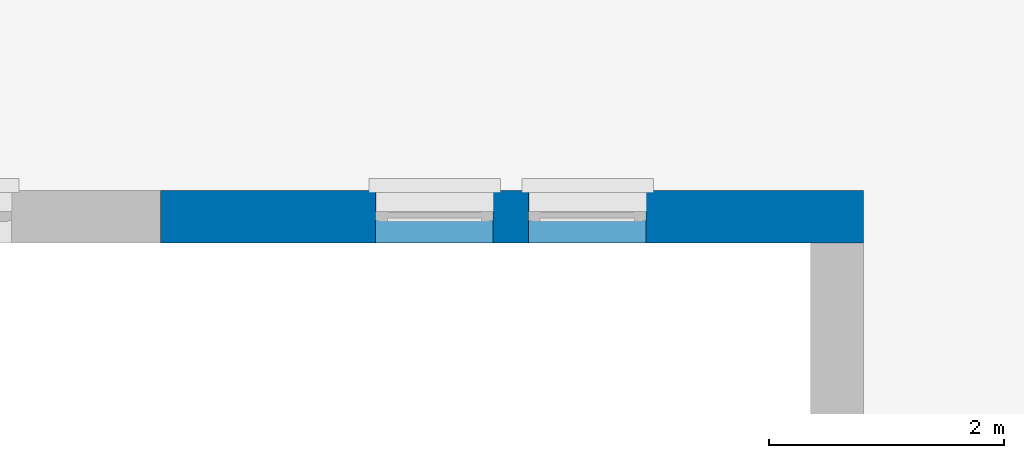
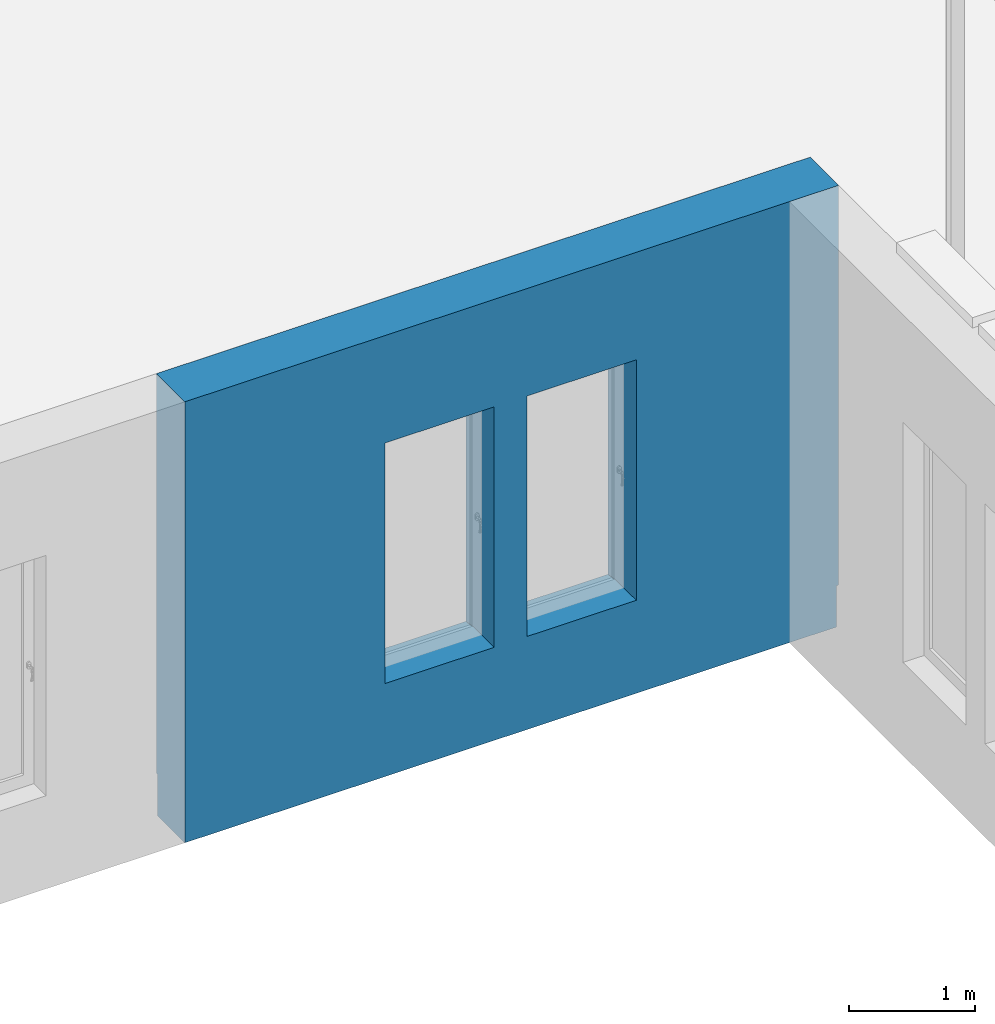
# One storey, part 34 of 77: 1 wall, 3 openings.
"""IFC2X3 building model written with IfcOpenShell, lengths in millimetres."""

from ifc_helpers import new_model, entity, si_unit, converted_unit, derived_unit, direction, frame, frame_2d, origin, place, context, subcontext, project, spatial, rectangle, extrude, faceted_brep, material, layer, layer_set, layer_usage, type_object, element, save


model = new_model("IFC2X3")

# Units and contexts
model_context = context("Model", 3, precision=0.01, world=origin(), true_north=direction((6.12303176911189e-17, 1.0)))
body_context = subcontext(model_context, "Body", "Model", "MODEL_VIEW")
ifc_project = project(units=[si_unit("LENGTHUNIT", "METRE", prefix="MILLI"), si_unit("AREAUNIT", "SQUARE_METRE"), si_unit("VOLUMEUNIT", "CUBIC_METRE"), converted_unit("PLANEANGLEUNIT", "DEGREE", entity("IfcRatioMeasure", 0.0174532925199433), si_unit("PLANEANGLEUNIT", "RADIAN"), dimensions=[0, 0, 0, 0, 0, 0, 0]), si_unit("MASSUNIT", "GRAM", prefix="KILO"), derived_unit("MASSDENSITYUNIT", [(si_unit("MASSUNIT", "GRAM", prefix="KILO"), 1), (si_unit("LENGTHUNIT", "METRE"), -3)]), si_unit("TIMEUNIT", "SECOND"), si_unit("FREQUENCYUNIT", "HERTZ"), si_unit("THERMODYNAMICTEMPERATUREUNIT", "DEGREE_CELSIUS"), derived_unit("THERMALTRANSMITTANCEUNIT", [(si_unit("MASSUNIT", "GRAM", prefix="KILO"), 1), (si_unit("THERMODYNAMICTEMPERATUREUNIT", "KELVIN"), -1), (si_unit("TIMEUNIT", "SECOND"), -3)]), derived_unit("VOLUMETRICFLOWRATEUNIT", [(si_unit("LENGTHUNIT", "METRE"), 3), (si_unit("TIMEUNIT", "SECOND"), -1)]), si_unit("ELECTRICCURRENTUNIT", "AMPERE"), si_unit("ELECTRICVOLTAGEUNIT", "VOLT"), si_unit("POWERUNIT", "WATT"), si_unit("FORCEUNIT", "NEWTON", prefix="KILO"), si_unit("ILLUMINANCEUNIT", "LUX"), si_unit("LUMINOUSFLUXUNIT", "LUMEN"), si_unit("LUMINOUSINTENSITYUNIT", "CANDELA"), derived_unit("USERDEFINED", [(si_unit("MASSUNIT", "GRAM", prefix="KILO"), -1), (si_unit("LENGTHUNIT", "METRE"), -2), (si_unit("TIMEUNIT", "SECOND"), 3), (si_unit("LUMINOUSFLUXUNIT", "LUMEN"), 1)]), derived_unit("LINEARVELOCITYUNIT", [(si_unit("LENGTHUNIT", "METRE"), 1), (si_unit("TIMEUNIT", "SECOND"), -1)]), si_unit("PRESSUREUNIT", "PASCAL"), derived_unit("USERDEFINED", [(si_unit("LENGTHUNIT", "METRE"), -2), (si_unit("MASSUNIT", "GRAM", prefix="KILO"), 1), (si_unit("TIMEUNIT", "SECOND"), -2)])], contexts=[model_context])

# Site, building, storey
site_placement = place(None, origin())
site = spatial("IfcSite", under=ifc_project, at=site_placement, Name="Default", CompositionType="ELEMENT")
building_placement = place(site_placement, origin())
building = spatial("IfcBuilding", under=site, at=building_placement, CompositionType="ELEMENT")
storey_placement = place(building_placement, origin())
storey = spatial("IfcBuildingStorey", under=building, at=storey_placement, Name="1. KORRUS", CompositionType="ELEMENT", Elevation=0.0)

# Wall, openings
ifc_material_1 = material(Name="RECKLI 1 173 THUR by Polantis 2016-toon1")
ifc_layer_1 = layer(ifc_material_1, 100.0)
ifc_material_2 = material(Name="Soojusisolatsioon EPS")
ifc_layer_2 = layer(ifc_material_2, 200.0)
ifc_material_3 = material(Name="r/b")
ifc_layer_3 = layer(ifc_material_3, 150.0)
ifc_layer_set = layer_set([ifc_layer_1, ifc_layer_2, ifc_layer_3], Name="Basic Wall:VS-1_toon-d")
ifc_layer_usage = layer_usage(ifc_layer_set, "AXIS2", "NEGATIVE", 225.0)
wall_type = type_object("IfcWallType", Name="Basic Wall:VS-1_toon-d", PredefinedType="STANDARD", material=ifc_layer_set)
wall_placement = place(storey_placement, frame((33970.103570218, 21725.0517807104, -400.0)))
wall = element("IfcWallStandardCase", 1, at=wall_placement, inside=storey, type_object=wall_type, material=ifc_layer_usage, Name="Basic Wall:VS-1_toon-d", ObjectType="Basic Wall:VS-1_toon-d", context=body_context, shape_type="SweptSolid", body=[
    extrude(rectangle(XDim=5979.89642978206, YDim=450.000000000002, at=frame_2d((2989.94821489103, 9.52127265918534e-13), x_axis=(-1.0, 0.0))), origin(), (0.0, 0.0, 1.0), 4265.0),
])
opening_1_placement = place(wall_placement, origin())
element("IfcOpeningElement", 2, at=opening_1_placement, cuts=wall, Name="Basic Wall:VS-1_toon-d", ObjectType="Opening", context=body_context, shape_type="Brep", body=[
    faceted_brep([(-34400.1035702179, 6304.94821928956, 400.0), (-34400.1035702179, 6304.94821928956, 0.0), (-34420.1035702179, 6324.94821928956, 0.0), (-34420.1035702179, 6324.94821928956, 400.0), (-34400.1035702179, 1564.94821928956, 400.0), (-34420.1035702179, 1564.94821928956, 400.0), (-34420.1035702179, 1564.94821928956, 0.0), (-34400.1035702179, 1564.94821928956, 0.0)], [[[0, 1, 2, 3]], [[4, 5, 6, 7]], [[1, 0, 4, 7]], [[2, 1, 7, 6]], [[3, 2, 6, 5]], [[0, 3, 5, 4]]]),
    faceted_brep([(-34400.1035702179, 6304.94821928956, 400.0), (-34420.1035702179, 6324.94821928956, 400.0), (-34420.1035702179, 6324.94821928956, 0.0), (-34400.1035702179, 6304.94821928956, 0.0), (-30060.1035702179, 6304.94821928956, 400.0), (-30060.1035702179, 6304.94821928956, 0.0), (-30060.1035702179, 6324.94821928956, 0.0), (-30060.1035702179, 6324.94821928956, 400.0)], [[[0, 1, 2, 3]], [[4, 5, 6, 7]], [[1, 0, 4, 7]], [[2, 1, 7, 6]], [[3, 2, 6, 5]], [[0, 3, 5, 4]]]),
    faceted_brep([(-24340.1035702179, 6304.94821928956, 400.0), (-24320.103570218, 6324.94821928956, 400.0), (-24320.103570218, 6324.94821928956, 0.0), (-24340.1035702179, 6304.94821928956, 0.0), (-24340.1035702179, 205.0, 400.0), (-24340.1035702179, 205.0, 0.0), (-24320.1035702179, 225.0, 0.0), (-24320.1035702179, 225.0, 400.0)], [[[0, 1, 2, 3]], [[4, 5, 6, 7]], [[1, 0, 4, 7]], [[2, 1, 7, 6]], [[3, 2, 6, 5]], [[0, 3, 5, 4]]]),
    faceted_brep([(-19620.1035702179, 205.0, 400.0), (-19620.1035702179, 225.0, 400.0), (-19620.1035702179, 225.0, 0.0), (-19620.1035702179, 205.0, 0.0), (-19090.1035702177, 205.0, 400.0), (-19090.1035702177, 205.0, 0.0), (-19090.1035702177, 225.0, 0.0), (-19090.1035702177, 225.0, 400.0)], [[[0, 1, 2, 3]], [[4, 5, 6, 7]], [[1, 0, 4, 7]], [[2, 1, 7, 6]], [[3, 2, 6, 5]], [[0, 3, 5, 4]]]),
    faceted_brep([(5959.89642978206, 205.0, 400.0), (5979.89642978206, 225.0, 400.0), (5979.89642978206, 225.0, 0.0), (5959.89642978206, 205.0, 0.0), (5959.89642978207, -5935.05178071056, 400.0), (5959.89642978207, -5935.05178071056, 0.0), (5979.89642978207, -5935.05178071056, 0.0), (5979.89642978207, -5935.05178071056, 400.0)], [[[0, 1, 2, 3]], [[4, 5, 6, 7]], [[1, 0, 4, 7]], [[2, 1, 7, 6]], [[3, 2, 6, 5]], [[0, 3, 5, 4]]]),
    faceted_brep([(5959.8964297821, -22155.0517807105, 400.0), (5979.8964297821, -22175.0517807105, 400.0), (5979.8964297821, -22175.0517807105, 0.0), (5959.8964297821, -22155.0517807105, 0.0), (829.896429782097, -22155.0517807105, 400.0), (829.896429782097, -22155.0517807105, 0.0), (829.896429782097, -22175.0517807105, 0.0), (829.896429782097, -22175.0517807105, 400.0)], [[[0, 1, 2, 3]], [[4, 5, 6, 7]], [[1, 0, 4, 7]], [[2, 1, 7, 6]], [[3, 2, 6, 5]], [[0, 3, 5, 4]]]),
    faceted_brep([(-22570.1035702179, -22155.0517807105, 400.0), (-22570.1035702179, -22175.0517807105, 400.0), (-22570.1035702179, -22175.0517807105, 0.0), (-22570.1035702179, -22155.0517807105, 0.0), (-26355.1035702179, -22155.0517807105, 400.0), (-26355.1035702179, -22155.0517807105, 0.0), (-26355.1035702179, -22175.0517807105, 0.0), (-26355.1035702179, -22175.0517807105, 400.0)], [[[0, 1, 2, 3]], [[4, 5, 6, 7]], [[1, 0, 4, 7]], [[2, 1, 7, 6]], [[3, 2, 6, 5]], [[0, 3, 5, 4]]]),
    faceted_brep([(5959.89642978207, -8965.05178071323, 400.0), (5979.89642978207, -8965.05178071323, 400.0), (5979.89642978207, -8965.05178071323, 0.0), (5959.89642978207, -8965.05178071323, 0.0), (5959.89642978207, -13081.7217807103, 400.0), (5959.89642978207, -13081.7217807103, 0.0), (5979.89642978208, -13081.7217807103, 0.0), (5979.89642978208, -13081.7217807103, 400.0)], [[[0, 1, 2, 3]], [[4, 5, 6, 7]], [[1, 0, 4, 7]], [[2, 1, 7, 6]], [[3, 2, 6, 5]], [[0, 3, 5, 4]]]),
    faceted_brep([(-2770.10357021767, -22155.0517807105, 400.0), (-2770.10357021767, -22175.0517807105, 400.0), (-2770.10357021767, -22175.0517807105, 0.0), (-2770.10357021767, -22155.0517807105, 0.0), (-5170.1035702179, -22155.0517807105, 400.0), (-5170.1035702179, -22155.0517807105, 0.0), (-5170.1035702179, -22175.0517807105, 0.0), (-5170.1035702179, -22175.0517807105, 400.0)], [[[0, 1, 2, 3]], [[4, 5, 6, 7]], [[1, 0, 4, 7]], [[2, 1, 7, 6]], [[3, 2, 6, 5]], [[0, 3, 5, 4]]]),
    faceted_brep([(-30180.0727464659, -22155.0517807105, 400.0), (-30180.0727464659, -22175.0517807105, 400.0), (-30180.0727464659, -22175.0517807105, 0.0), (-30180.0727464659, -22155.0517807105, 0.0), (-32665.0727464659, -22155.0517807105, 400.0), (-32665.0727464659, -22155.0517807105, 0.0), (-32665.0727464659, -22175.0517807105, 0.0), (-32665.0727464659, -22175.0517807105, 400.0)], [[[0, 1, 2, 3]], [[4, 5, 6, 7]], [[1, 0, 4, 7]], [[2, 1, 7, 6]], [[3, 2, 6, 5]], [[0, 3, 5, 4]]]),
    faceted_brep([(-17970.1035702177, -22155.0517807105, 400.0), (-17970.1035702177, -22175.0517807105, 400.0), (-17970.1035702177, -22175.0517807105, 0.0), (-17970.1035702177, -22155.0517807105, 0.0), (-18970.1035702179, -22155.0517807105, 400.0), (-18970.1035702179, -22155.0517807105, 0.0), (-18970.1035702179, -22175.0517807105, 0.0), (-18970.1035702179, -22175.0517807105, 400.0)], [[[0, 1, 2, 3]], [[4, 5, 6, 7]], [[1, 0, 4, 7]], [[2, 1, 7, 6]], [[3, 2, 6, 5]], [[0, 3, 5, 4]]]),
    faceted_brep([(-13370.0719072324, -22155.0517807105, 400.0), (-13370.0719072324, -22175.0517807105, 400.0), (-13370.0719072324, -22175.0517807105, 0.0), (-13370.0719072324, -22155.0517807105, 0.0), (-14370.1035702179, -22155.0517807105, 400.0), (-14370.1035702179, -22155.0517807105, 0.0), (-14370.1035702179, -22175.0517807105, 0.0), (-14370.1035702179, -22175.0517807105, 400.0)], [[[0, 1, 2, 3]], [[4, 5, 6, 7]], [[1, 0, 4, 7]], [[2, 1, 7, 6]], [[3, 2, 6, 5]], [[0, 3, 5, 4]]]),
    faceted_brep([(-8770.07190723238, -22155.0517807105, 400.0), (-8770.07190723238, -22175.0517807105, 400.0), (-8770.07190723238, -22175.0517807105, 0.0), (-8770.07190723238, -22155.0517807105, 0.0), (-9770.1035702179, -22155.0517807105, 400.0), (-9770.1035702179, -22155.0517807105, 0.0), (-9770.1035702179, -22175.0517807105, 0.0), (-9770.1035702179, -22175.0517807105, 400.0)], [[[0, 1, 2, 3]], [[4, 5, 6, 7]], [[1, 0, 4, 7]], [[2, 1, 7, 6]], [[3, 2, 6, 5]], [[0, 3, 5, 4]]]),
    faceted_brep([(5959.89642978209, -17310.0517807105, 400.0), (5979.89642978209, -17310.0517807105, 400.0), (5979.89642978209, -17310.0517807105, 0.0), (5959.89642978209, -17310.0517807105, 0.0), (5959.8964297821, -22155.0517807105, 400.0), (5959.8964297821, -22155.0517807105, 0.0), (5979.8964297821, -22175.0517807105, 0.0), (5979.8964297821, -22175.0517807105, 400.0)], [[[0, 1, 2, 3]], [[4, 5, 6, 7]], [[1, 0, 4, 7]], [[2, 1, 7, 6]], [[3, 2, 6, 5]], [[0, 3, 5, 4]]]),
    faceted_brep([(5959.89642978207, -13081.7217807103, 400.0), (5979.89642978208, -13081.7217807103, 400.0), (5979.89642978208, -13081.7217807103, 0.0), (5959.89642978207, -13081.7217807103, 0.0), (5959.89642978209, -17310.0517807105, 400.0), (5959.89642978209, -17310.0517807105, 0.0), (5979.89642978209, -17310.0517807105, 0.0), (5979.89642978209, -17310.0517807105, 400.0)], [[[0, 1, 2, 3]], [[4, 5, 6, 7]], [[1, 0, 4, 7]], [[2, 1, 7, 6]], [[3, 2, 6, 5]], [[0, 3, 5, 4]]]),
    faceted_brep([(5959.89642978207, -5935.05178071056, 400.0), (5979.89642978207, -5935.05178071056, 400.0), (5979.89642978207, -5935.05178071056, 0.0), (5959.89642978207, -5935.05178071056, 0.0), (5959.89642978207, -8965.05178071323, 400.0), (5959.89642978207, -8965.05178071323, 0.0), (5979.89642978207, -8965.05178071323, 0.0), (5979.89642978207, -8965.05178071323, 400.0)], [[[0, 1, 2, 3]], [[4, 5, 6, 7]], [[1, 0, 4, 7]], [[2, 1, 7, 6]], [[3, 2, 6, 5]], [[0, 3, 5, 4]]]),
    faceted_brep([(0.0, 205.0, 400.0), (0.0, 225.0, 400.0), (0.0, 225.0, 0.0), (0.0, 205.0, 0.0), (5959.89642978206, 205.0, 400.0), (5959.89642978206, 205.0, 0.0), (5979.89642978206, 225.0, 0.0), (5979.89642978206, 225.0, 400.0)], [[[0, 1, 2, 3]], [[4, 5, 6, 7]], [[1, 0, 4, 7]], [[2, 1, 7, 6]], [[3, 2, 6, 5]], [[0, 3, 5, 4]]]),
    faceted_brep([(-5306.88742148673, 205.0, 400.0), (-5306.88742148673, 225.0, 400.0), (-5306.88742148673, 225.0, 0.0), (-5306.88742148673, 205.0, 0.0), (0.0, 205.0, 400.0), (0.0, 205.0, 0.0), (0.0, 225.0, 0.0), (0.0, 225.0, 400.0)], [[[0, 1, 2, 3]], [[4, 5, 6, 7]], [[1, 0, 4, 7]], [[2, 1, 7, 6]], [[3, 2, 6, 5]], [[0, 3, 5, 4]]]),
    faceted_brep([(-26355.1035702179, -22155.0517807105, 400.0), (-26355.1035702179, -22175.0517807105, 400.0), (-26355.1035702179, -22175.0517807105, 0.0), (-26355.1035702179, -22155.0517807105, 0.0), (-30180.0727464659, -22155.0517807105, 400.0), (-30180.0727464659, -22155.0517807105, 0.0), (-30180.0727464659, -22175.0517807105, 0.0), (-30180.0727464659, -22175.0517807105, 400.0)], [[[0, 1, 2, 3]], [[4, 5, 6, 7]], [[1, 0, 4, 7]], [[2, 1, 7, 6]], [[3, 2, 6, 5]], [[0, 3, 5, 4]]]),
    faceted_brep([(-11885.1035702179, 205.0, 400.0), (-11885.1035702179, 225.0, 400.0), (-11885.1035702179, 225.0, 0.0), (-11885.1035702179, 205.0, 0.0), (-5306.88742148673, 205.0, 400.0), (-5306.88742148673, 205.0, 0.0), (-5306.88742148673, 225.0, 0.0), (-5306.88742148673, 225.0, 400.0)], [[[0, 1, 2, 3]], [[4, 5, 6, 7]], [[1, 0, 4, 7]], [[2, 1, 7, 6]], [[3, 2, 6, 5]], [[0, 3, 5, 4]]]),
    faceted_brep([(-15716.7506792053, 205.0, 400.0), (-15716.7506792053, 225.0, 400.0), (-15716.7506792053, 225.0, 0.0), (-15716.7506792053, 205.0, 0.0), (-11885.1035702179, 205.0, 400.0), (-11885.1035702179, 205.0, 0.0), (-11885.1035702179, 225.0, 0.0), (-11885.1035702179, 225.0, 400.0)], [[[0, 1, 2, 3]], [[4, 5, 6, 7]], [[1, 0, 4, 7]], [[2, 1, 7, 6]], [[3, 2, 6, 5]], [[0, 3, 5, 4]]]),
    faceted_brep([(-19090.1035702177, 205.0, 400.0), (-19090.1035702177, 225.0, 400.0), (-19090.1035702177, 225.0, 0.0), (-19090.1035702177, 205.0, 0.0), (-15716.7506792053, 205.0, 400.0), (-15716.7506792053, 205.0, 0.0), (-15716.7506792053, 225.0, 0.0), (-15716.7506792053, 225.0, 400.0)], [[[0, 1, 2, 3]], [[4, 5, 6, 7]], [[1, 0, 4, 7]], [[2, 1, 7, 6]], [[3, 2, 6, 5]], [[0, 3, 5, 4]]]),
    faceted_brep([(-30060.1035702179, 6304.94821928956, 400.0), (-30060.1035702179, 6324.94821928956, 400.0), (-30060.1035702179, 6324.94821928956, 0.0), (-30060.1035702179, 6304.94821928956, 0.0), (-24340.1035702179, 6304.94821928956, 400.0), (-24340.1035702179, 6304.94821928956, 0.0), (-24320.1035702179, 6324.94821928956, 0.0), (-24320.1035702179, 6324.94821928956, 400.0)], [[[0, 1, 2, 3]], [[4, 5, 6, 7]], [[1, 0, 4, 7]], [[2, 1, 7, 6]], [[3, 2, 6, 5]], [[0, 3, 5, 4]]]),
    faceted_brep([(-34400.1035702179, 1564.94821928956, 400.0), (-34400.1035702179, 1564.94821928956, 0.0), (-34420.1035702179, 1564.94821928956, 0.0), (-34420.1035702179, 1564.94821928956, 400.0), (-34400.1035702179, -3985.05108347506, 400.0), (-34420.1035702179, -3985.05108347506, 400.0), (-34420.1035702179, -3985.05108347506, 0.0), (-34400.1035702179, -3985.05108347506, 0.0)], [[[0, 1, 2, 3]], [[4, 5, 6, 7]], [[1, 0, 4, 7]], [[2, 1, 7, 6]], [[3, 2, 6, 5]], [[0, 3, 5, 4]]]),
    faceted_brep([(-34400.1035702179, -3985.05108347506, 400.0), (-34400.1035702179, -3985.05108347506, 0.0), (-34420.1035702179, -3985.05108347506, 0.0), (-34420.1035702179, -3985.05108347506, 400.0), (-34400.1035702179, -8925.05178071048, 400.0), (-34420.1035702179, -8925.05178071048, 400.0), (-34420.1035702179, -8925.05178071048, 0.0), (-34400.1035702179, -8925.05178071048, 0.0)], [[[0, 1, 2, 3]], [[4, 5, 6, 7]], [[1, 0, 4, 7]], [[2, 1, 7, 6]], [[3, 2, 6, 5]], [[0, 3, 5, 4]]]),
    faceted_brep([(-24340.1035702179, 205.0, 400.0), (-24320.1035702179, 225.0, 400.0), (-24320.1035702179, 225.0, 0.0), (-24340.1035702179, 205.0, 0.0), (-23220.1035702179, 205.0, 400.0), (-23220.1035702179, 205.0, 0.0), (-23220.1035702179, 225.0, 0.0), (-23220.1035702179, 225.0, 400.0)], [[[0, 1, 2, 3]], [[4, 5, 6, 7]], [[1, 0, 4, 7]], [[2, 1, 7, 6]], [[3, 2, 6, 5]], [[0, 3, 5, 4]]]),
])
opening_2_placement = place(wall_placement, frame((1829.89642978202, -225.0, 878.057009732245)))
element("IfcOpeningElement", 3, at=opening_2_placement, cuts=wall, Name="Basic Wall:VS-1_toon-d", ObjectType="Opening", context=body_context, shape_type="Brep", body=[
    faceted_brep([(0.0, 0.0, 2346.94299026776), (0.0, 0.0, 21.9429902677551), (1000.0, 0.0, 21.9429902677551), (1000.0, 0.0, 2346.94299026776), (1000.0, 450.0, 2721.94299026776), (1000.0, 450.0, 0.0), (0.0, 450.0, 0.0), (0.0, 450.0, 2721.94299026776), (0.0, 250.0, 2346.94299026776), (0.0, 250.0, 2721.94299026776), (0.0, 325.555118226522, 21.9429902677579), (1000.0, 325.555118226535, 21.9429902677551), (1000.0, 250.0, 2721.94299026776), (1000.0, 250.0, 2346.94299026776)], [[[0, 1, 2, 3]], [[4, 5, 6, 7]], [[0, 8, 9, 7, 6, 10, 1]], [[1, 10, 11, 2]], [[2, 11, 5, 4, 12, 13, 3]], [[3, 13, 8, 0]], [[9, 8, 13, 12]], [[12, 4, 7, 9]], [[6, 5, 11, 10]]]),
])
opening_3_placement = place(wall_placement, frame((3129.89642978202, -225.0, 878.057009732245)))
element("IfcOpeningElement", 4, at=opening_3_placement, cuts=wall, Name="Basic Wall:VS-1_toon-d", ObjectType="Opening", context=body_context, shape_type="Brep", body=[
    faceted_brep([(0.0, 0.0, 2346.94299026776), (0.0, 0.0, 21.9429902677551), (1000.0, 0.0, 21.9429902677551), (1000.0, 0.0, 2346.94299026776), (1000.0, 450.0, 2721.94299026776), (1000.0, 450.0, 0.0), (0.0, 450.0, 0.0), (0.0, 450.0, 2721.94299026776), (0.0, 250.0, 2346.94299026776), (0.0, 250.0, 2721.94299026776), (0.0, 325.555118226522, 21.9429902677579), (1000.0, 325.555118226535, 21.9429902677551), (1000.0, 250.0, 2721.94299026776), (1000.0, 250.0, 2346.94299026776)], [[[0, 1, 2, 3]], [[4, 5, 6, 7]], [[0, 8, 9, 7, 6, 10, 1]], [[1, 10, 11, 2]], [[2, 11, 5, 4, 12, 13, 3]], [[3, 13, 8, 0]], [[9, 8, 13, 12]], [[12, 4, 7, 9]], [[6, 5, 11, 10]]]),
])

save(model, "model.ifc")
